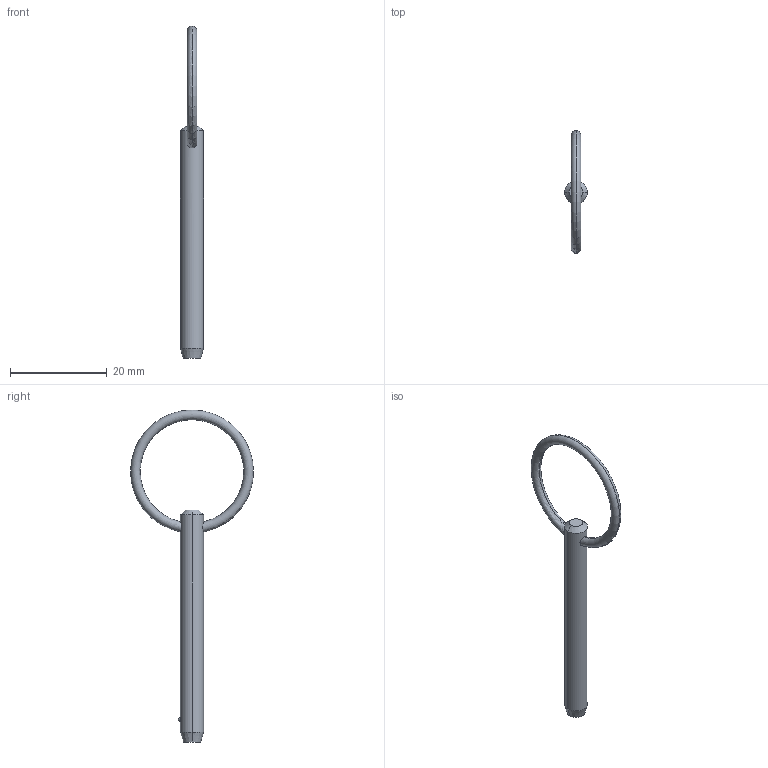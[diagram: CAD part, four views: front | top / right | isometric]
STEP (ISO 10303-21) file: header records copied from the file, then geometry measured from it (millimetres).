
FILE_DESCRIPTION (( 'STEP AP203' ), '1' );
FILE_NAME ('P1250.018-150.step', '2019-07-29T19:31:53', ( '' ), ( '' ), 'SwSTEP 2.0', 'SolidWorks 2017', '' );
FILE_SCHEMA (( 'CONFIG_CONTROL_DESIGN' ));
Length unit declared in the file: millimetre
Products named in the file (1): P1250.018-150
Bounding box: 4.76 x 25.4 x 68.58 mm (x, y, z)
Volume: 1055.3 mm3; surface area: 1159.8 mm2
Topology: 1 solids, 1 shells, 12 faces, 28 edges, 17 vertices
Faces by surface type: cone 4, torus 2, sphere 2, cylinder 2, plane 2
Entity records: 471 total; most frequent: CARTESIAN_POINT 138, DIRECTION 56, ORIENTED_EDGE 48, AXIS2_PLACEMENT_3D 25, EDGE_CURVE 24, EDGE_LOOP 15, VERTEX_POINT 15, CIRCLE 12
